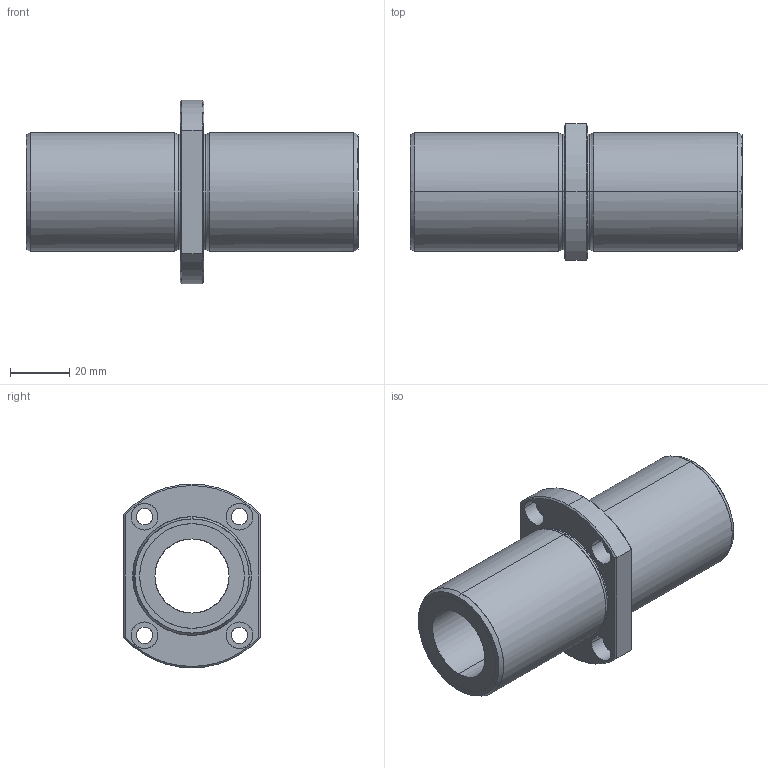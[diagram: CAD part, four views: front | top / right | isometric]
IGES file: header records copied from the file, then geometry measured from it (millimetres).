
Global section: file name: No Iges File Name specified; native system: AutoDesk Inventor R10; preprocessor: AutoDesk Inventor Iges Exporter R10; author: No Author specified; organization: No Organization specified; date: 20101211.155919; units: millimetre
Bounding box: 112 x 46 x 62 mm (x, y, z)
Surface area: 27983.3 mm2 (no closed solid volume)
Topology: 0 solids, 0 shells, 66 faces, 416 edges, 416 vertices
Faces by surface type: bspline 66
